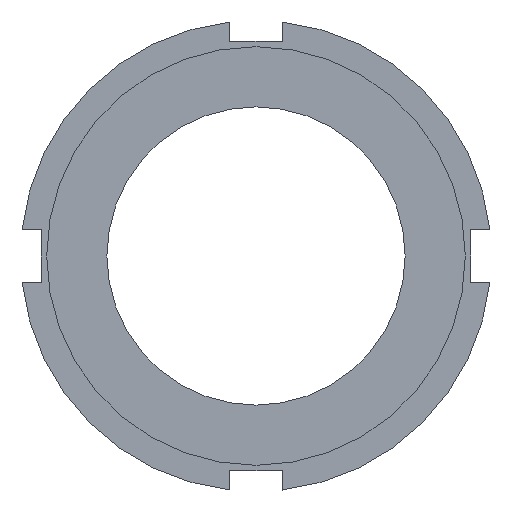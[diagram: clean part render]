
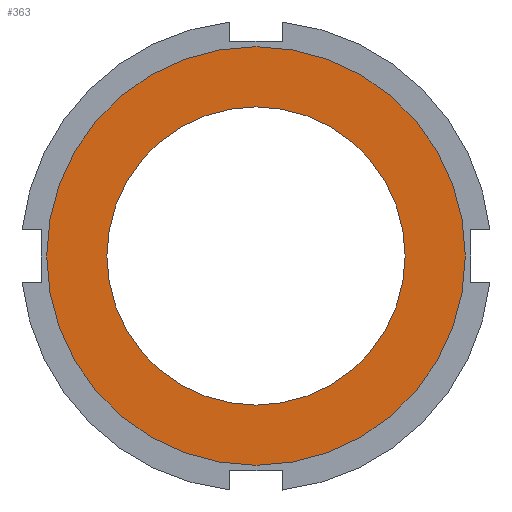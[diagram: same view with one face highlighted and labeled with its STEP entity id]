
A CAD part, left-side view. The second image highlights one B-rep face of the part: STEP entity #363.
In plain terms, the highlighted planar face has unit normal (-1, 0, 0).
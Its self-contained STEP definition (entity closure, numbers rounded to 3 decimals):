
#16 = CIRCLE ( 'NONE', #17, 14.25 ) ;
#17 = AXIS2_PLACEMENT_3D ( 'NONE', #18, #19, #20 ) ;
#18 = CARTESIAN_POINT ( 'NONE',  ( 0., 0., 0. ) ) ;
#19 = DIRECTION ( 'NONE',  ( -1., 0., 0. ) ) ;
#20 = DIRECTION ( 'NONE',  ( 0., 0., 1. ) ) ;
#256 = EDGE_CURVE ( 'NONE', #612, #360, #581, .T. ) ;
#265 = ORIENTED_EDGE ( 'NONE', *, *, #356, .F. ) ;
#275 = ORIENTED_EDGE ( 'NONE', *, *, #389, .T. ) ;
#291 = EDGE_LOOP ( 'NONE', ( #275, #346 ) ) ;
#346 = ORIENTED_EDGE ( 'NONE', *, *, #256, .T. ) ;
#350 = VERTEX_POINT ( 'NONE', #501 ) ;
#356 = EDGE_CURVE ( 'NONE', #671, #350, #524, .T. ) ;
#360 = VERTEX_POINT ( 'NONE', #535 ) ;
#363 = ADVANCED_FACE ( 'NONE', ( #544, #545 ), #546, .F. ) ;
#389 = EDGE_CURVE ( 'NONE', #360, #612, #662, .T. ) ;
#407 = EDGE_CURVE ( 'NONE', #350, #671, #16, .T. ) ;
#423 = ORIENTED_EDGE ( 'NONE', *, *, #407, .F. ) ;
#501 = CARTESIAN_POINT ( 'NONE',  ( 0., 0., 14.25 ) ) ;
#524 = CIRCLE ( 'NONE', #525, 14.25 ) ;
#525 = AXIS2_PLACEMENT_3D ( 'NONE', #526, #527, #528 ) ;
#526 = CARTESIAN_POINT ( 'NONE',  ( 0., 0., 0. ) ) ;
#527 = DIRECTION ( 'NONE',  ( -1., 0., 0. ) ) ;
#528 = DIRECTION ( 'NONE',  ( 0., 0., 1. ) ) ;
#535 = CARTESIAN_POINT ( 'NONE',  ( 0., 0., 20. ) ) ;
#544 = FACE_BOUND ( 'NONE', #594, .T. ) ;
#545 = FACE_OUTER_BOUND ( 'NONE', #291, .T. ) ;
#546 = PLANE ( 'NONE',  #547 ) ;
#547 = AXIS2_PLACEMENT_3D ( 'NONE', #548, #549, #550 ) ;
#548 = CARTESIAN_POINT ( 'NONE',  ( 0., 14.25, 0. ) ) ;
#549 = DIRECTION ( 'NONE',  ( 1., 0., 0. ) ) ;
#550 = DIRECTION ( 'NONE',  ( 0., 0., -1. ) ) ;
#581 = CIRCLE ( 'NONE', #582, 20. ) ;
#582 = AXIS2_PLACEMENT_3D ( 'NONE', #583, #584, #585 ) ;
#583 = CARTESIAN_POINT ( 'NONE',  ( 0., 0., 0. ) ) ;
#584 = DIRECTION ( 'NONE',  ( -1., 0., 0. ) ) ;
#585 = DIRECTION ( 'NONE',  ( 0., 0., 1. ) ) ;
#594 = EDGE_LOOP ( 'NONE', ( #423, #265 ) ) ;
#612 = VERTEX_POINT ( 'NONE', #647 ) ;
#647 = CARTESIAN_POINT ( 'NONE',  ( 0., 0., -20. ) ) ;
#662 = CIRCLE ( 'NONE', #663, 20. ) ;
#663 = AXIS2_PLACEMENT_3D ( 'NONE', #664, #665, #666 ) ;
#664 = CARTESIAN_POINT ( 'NONE',  ( 0., 0., 0. ) ) ;
#665 = DIRECTION ( 'NONE',  ( -1., 0., 0. ) ) ;
#666 = DIRECTION ( 'NONE',  ( 0., 0., 1. ) ) ;
#671 = VERTEX_POINT ( 'NONE', #700 ) ;
#700 = CARTESIAN_POINT ( 'NONE',  ( 0., 0., -14.25 ) ) ;
